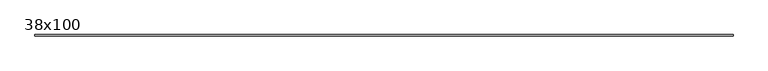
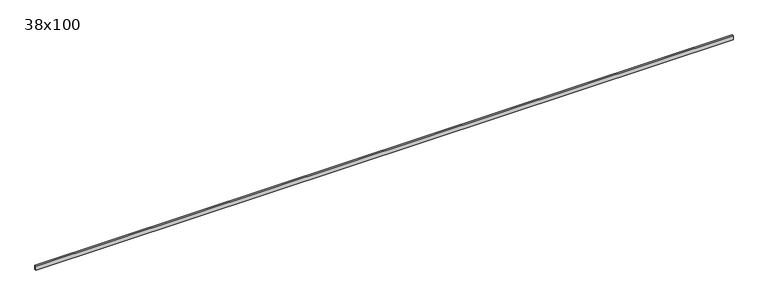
"""IFC4 building model written with IfcOpenShell, lengths in millimetres: beam geometry, Poutre - Bois de construction de dimensions courantes : 38x100."""

from ifc_helpers import new_model, si_unit, frame, origin, place, context, project, spatial, polyline, outline, extrude, source, transform, mapped, element, save


def beam_38x100_73bf2a21(model_context):
    return source(origin(), model_context, "Body", "SweptSolid", [
        extrude(outline(polyline([(8493.0, 19.05), (8493.0, -19.05), (-8659.0, -19.05), (-8659.0, 19.05), (8493.0, 19.05)])), frame((0.0, 0.0, -50.0), z_axis=(0.0, 0.0, 1.0), x_axis=(1.0, 0.0, 0.0)), (0.0, 0.0, 1.0), 100.0),
    ])


if __name__ == "__main__":
    model = new_model("IFC4")
    model_context = context("Model", 3, world=origin())
    ifc_project = project(units=[si_unit("LENGTHUNIT", "METRE", prefix="MILLI")], contexts=[model_context])
    site = spatial("IfcSite", under=ifc_project)
    building = spatial("IfcBuilding", under=site)
    placement = place(None, origin())
    beam_38x100_shape = beam_38x100_73bf2a21(model_context)
    element("IfcBeam", 1, ObjectType="Poutre - Bois de construction de dimensions courantes : 38x100", at=placement, inside=building, context=model_context, shape_type="MappedRepresentation", body=[
        mapped(beam_38x100_shape, transform((0.0, 0.0, 0.0), x_axis=(1.0, 0.0, 0.0), y_axis=(0.0, 1.0, 0.0), z_axis=(0.0, 0.0, 1.0))),
    ])
    save(model, "model.ifc")
